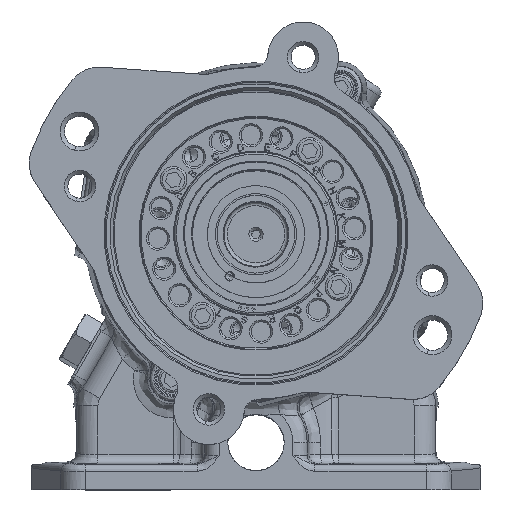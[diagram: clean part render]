
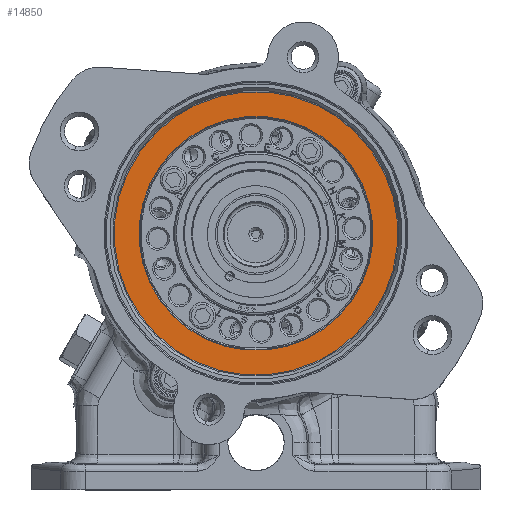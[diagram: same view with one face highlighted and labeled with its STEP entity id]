
A CAD part, top view. The second image highlights one B-rep face of the part: STEP entity #14850.
In plain terms, the highlighted planar face has unit normal (0, 0, 1).
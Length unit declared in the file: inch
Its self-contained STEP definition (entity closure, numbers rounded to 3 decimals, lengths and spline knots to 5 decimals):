
#1547 = FACE_BOUND ( 'NONE', #69897, .T. ) ;
#3921 = DIRECTION ( 'NONE',  ( 0., 0., 1. ) ) ;
#7594 = EDGE_CURVE ( 'NONE', #42162, #33995, #31485, .T. ) ;
#7888 = DIRECTION ( 'NONE',  ( 0., 0., 1. ) ) ;
#11032 = CARTESIAN_POINT ( 'NONE',  ( -2.481, 0., -1.039 ) ) ;
#12114 = DIRECTION ( 'NONE',  ( 0., 0., 1. ) ) ;
#14850 = ADVANCED_FACE ( 'NONE', ( #35773, #1547 ), #88574, .T. ) ;
#16423 = DIRECTION ( 'NONE',  ( 1., 0., 0. ) ) ;
#18814 = CARTESIAN_POINT ( 'NONE',  ( 0., 0., -1.039 ) ) ;
#20762 = DIRECTION ( 'NONE',  ( 1., 0., 0. ) ) ;
#20911 = DIRECTION ( 'NONE',  ( 1., 0., 0. ) ) ;
#31054 = CARTESIAN_POINT ( 'NONE',  ( 2.481, 0., -1.039 ) ) ;
#31485 = CIRCLE ( 'NONE', #57396, 2.04688 ) ;
#33355 = EDGE_CURVE ( 'NONE', #121738, #125568, #112171, .T. ) ;
#33794 = DIRECTION ( 'NONE',  ( 0., 0., -1. ) ) ;
#33995 = VERTEX_POINT ( 'NONE', #129333 ) ;
#35773 = FACE_OUTER_BOUND ( 'NONE', #65126, .T. ) ;
#42162 = VERTEX_POINT ( 'NONE', #110508 ) ;
#44301 = AXIS2_PLACEMENT_3D ( 'NONE', #143669, #7888, #20911 ) ;
#44993 = ORIENTED_EDGE ( 'NONE', *, *, #67836, .T. ) ;
#50065 = ORIENTED_EDGE ( 'NONE', *, *, #33355, .T. ) ;
#52103 = CIRCLE ( 'NONE', #44301, 2.481 ) ;
#57396 = AXIS2_PLACEMENT_3D ( 'NONE', #132183, #33794, #20762 ) ;
#65126 = EDGE_LOOP ( 'NONE', ( #100540, #50065 ) ) ;
#67836 = EDGE_CURVE ( 'NONE', #33995, #42162, #98850, .T. ) ;
#68460 = DIRECTION ( 'NONE',  ( 0., 0., -1. ) ) ;
#69897 = EDGE_LOOP ( 'NONE', ( #44993, #121707 ) ) ;
#88574 = PLANE ( 'NONE',  #90011 ) ;
#89350 = DIRECTION ( 'NONE',  ( 1., 0., 0. ) ) ;
#90011 = AXIS2_PLACEMENT_3D ( 'NONE', #112134, #12114, #125968 ) ;
#96203 = AXIS2_PLACEMENT_3D ( 'NONE', #18814, #68460, #16423 ) ;
#98850 = CIRCLE ( 'NONE', #96203, 2.04688 ) ;
#100540 = ORIENTED_EDGE ( 'NONE', *, *, #149326, .T. ) ;
#100750 = CARTESIAN_POINT ( 'NONE',  ( 0., 0., -1.039 ) ) ;
#110508 = CARTESIAN_POINT ( 'NONE',  ( -2.04688, 0., -1.039 ) ) ;
#112134 = CARTESIAN_POINT ( 'NONE',  ( 0., 2.501, -1.039 ) ) ;
#112171 = CIRCLE ( 'NONE', #125209, 2.481 ) ;
#121707 = ORIENTED_EDGE ( 'NONE', *, *, #7594, .T. ) ;
#121738 = VERTEX_POINT ( 'NONE', #11032 ) ;
#125209 = AXIS2_PLACEMENT_3D ( 'NONE', #100750, #3921, #89350 ) ;
#125568 = VERTEX_POINT ( 'NONE', #31054 ) ;
#125968 = DIRECTION ( 'NONE',  ( 1., 0., 0. ) ) ;
#129333 = CARTESIAN_POINT ( 'NONE',  ( 2.04688, 0., -1.039 ) ) ;
#132183 = CARTESIAN_POINT ( 'NONE',  ( 0., 0., -1.039 ) ) ;
#143669 = CARTESIAN_POINT ( 'NONE',  ( 0., 0., -1.039 ) ) ;
#149326 = EDGE_CURVE ( 'NONE', #125568, #121738, #52103, .T. ) ;
